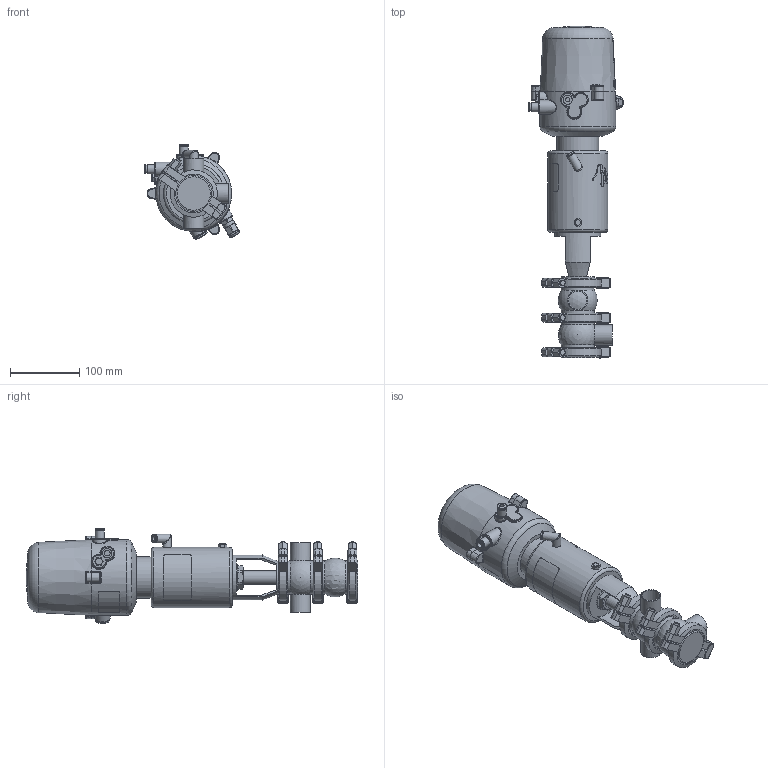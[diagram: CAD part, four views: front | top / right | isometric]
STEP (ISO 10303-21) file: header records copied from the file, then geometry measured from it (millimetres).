
FILE_DESCRIPTION (( 'STEP AP214' ), '1' );
FILE_NAME ('INNOVA M A W DIN 025 T1 AS NC & C-TOP S_10.241.16.0037.STEP', '2024-08-07T07:00:53', ( '' ), ( '' ), 'SwSTEP 2.0', 'SolidWorks 2023', '' );
FILE_SCHEMA (( 'AUTOMOTIVE_DESIGN' ));
Length unit declared in the file: millimetre
Products named in the file (9): 10.240.15.0007_DIN 025; 10.241.15.0001_DIN 025; INNOVA M A W DIN 025 T1 AS NC & C-TOP S_10.241.16.0037; 10.240.15.0010_DN 025; 10.240.15.0014_T1 AS P180; 10.426.15.0001_C-TOP S - 1 EV; 10.240.15.0001_DN 025; 10.240.15.0017_Estàndard; 10.240.15.0006_DIN 025
Assembly tree (10 placements, depth 2):
  INNOVA M A W DIN 025 T1 AS NC & C-TOP S_10.241.16.0037
    10.240.15.0007_DIN 025
    10.240.15.0006_DIN 025
    10.240.15.0010_DN 025
    10.240.15.0014_T1 AS P180
    10.240.15.0017_Estàndard
    10.426.15.0001_C-TOP S - 1 EV
    10.240.15.0001_DN 025  x3
    10.241.15.0001_DIN 025
Bounding box: 136.88 x 478.09 x 137.63 mm (x, y, z)
Volume: 2553783.8 mm3; surface area: 251960.1 mm2
Topology: 11 solids, 11 shells, 1244 faces, 3033 edges, 2013 vertices
Faces by surface type: plane 443, cylinder 380, cone 215, bspline 160, torus 36, sphere 10
Full cylindrical faces by diameter (mm): 0.371 x17, 0.512 x16, 0.658 x16, 0.795 x16, 0.94 x15, 1.098 x15, 1.241 x13, 1.382 x13, 1.523 x11, 1.669 x10, 2.201 x1, 4 x2, 5.5 x2, 6 x2, 6.15 x1, 8 x8, 8.5 x1, 10 x1, 10.5 x1, 11 x2, 12.5 x3, 13 x2, 13.5 x2, 16 x1, 17 x3, 20 x3, 20.5 x1, 22 x2, 26 x3, 29 x3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
Entity records: 57273 total; most frequent: CARTESIAN_POINT 26749, ORIENTED_EDGE 4566, DIRECTION 3715, EDGE_CURVE 2283, VERTEX_POINT 1622, EDGE_LOOP 1579, AXIS2_PLACEMENT_3D 1525, FACE_OUTER_BOUND 1344
